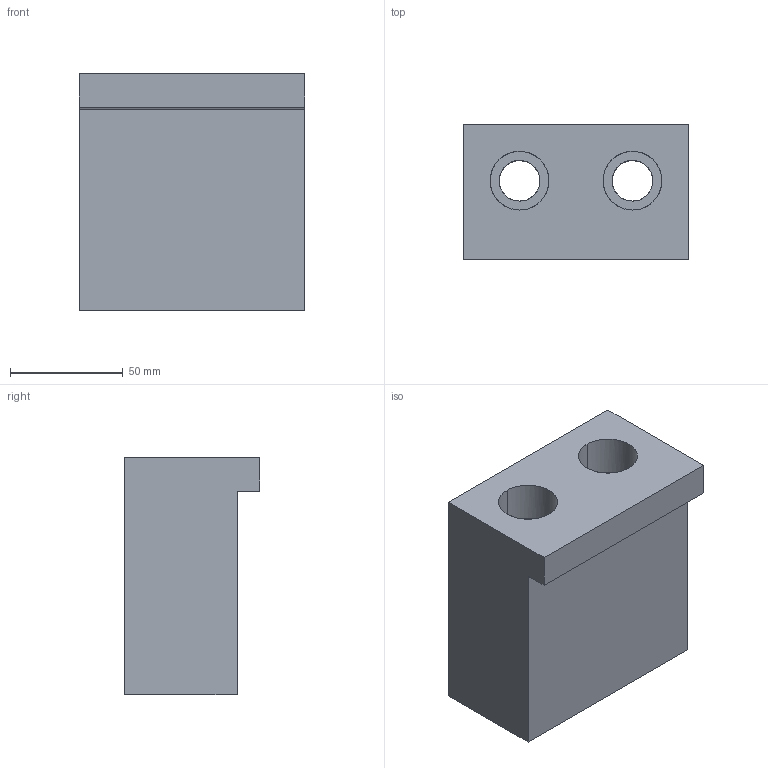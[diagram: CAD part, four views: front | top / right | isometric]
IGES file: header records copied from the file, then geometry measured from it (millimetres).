
Global section: file name: E:\UnigraphicsGraphicData\MISUMI_PRESS-PARTS\IGES\3d_bse100-90_01322_r00.igs; native system: NX V5.0; preprocessor: UGS NX IGES V5.0; author: MISUMI; date: 20110105.160140; units: millimetre
Bounding box: 100 x 60 x 105 mm (x, y, z)
Surface area: 55516.3 mm2 (no closed solid volume)
Topology: 0 solids, 0 shells, 19 faces, 174 edges, 174 vertices
Faces by surface type: bspline 19
